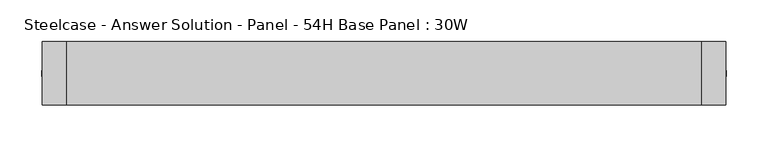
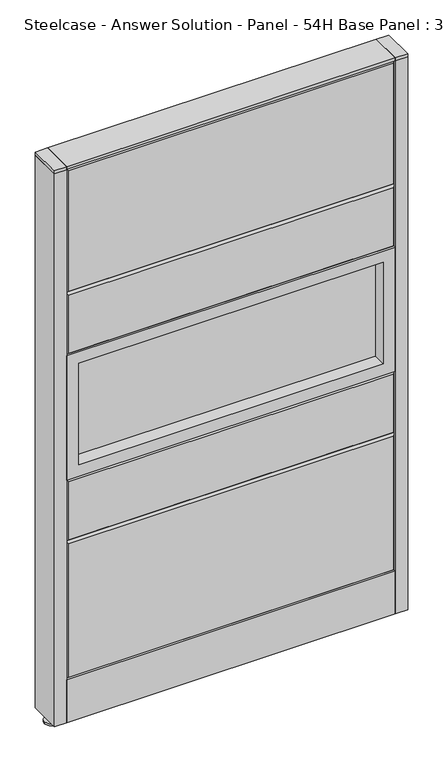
"""IFC4 building model written with IfcOpenShell, lengths in millimetres: furniture geometry, Steelcase - Answer Solution - Panel - 54H Base Panel : 30W."""

from ifc_helpers import new_model, si_unit, point, frame, frame_2d, origin, place, context, project, spatial, polyline, circle_curve, trimmed, segment, composite_curve, outline, extrude, faceted_brep, source, transform, mapped, element, save


def steelcase_answer_solution_panel_54h_base_panel_30w_2e228c11(model_context):
    return source(origin(), model_context, "Body", "SolidModel", [
        extrude(outline(composite_curve([segment(trimmed(circle_curve(frame_2d((395.224, 0.0320214)), 5.08), [point((400.304, 0.0320214))], [point((390.144, 0.0320214))], False, "CARTESIAN"), True, "CONTINUOUS"), segment(trimmed(circle_curve(frame_2d((395.224, 0.0320214)), 5.08), [point((390.144, 0.0320214))], [point((400.304, 0.0320214))], False, "CARTESIAN"), True, "CONTINUOUS")], self_intersect=False)), frame((0.0, 0.0, 5.0799671), z_axis=(0.0, 0.0, 1.0), x_axis=(1.0, 0.0, 0.0)), (0.0, 0.0, 1.0), 10.414),
        extrude(outline(composite_curve([segment(trimmed(circle_curve(frame_2d((395.224, 0.0320214)), 15.24), [point((410.464, 0.0320214))], [point((379.984, 0.0320214))], False, "CARTESIAN"), True, "CONTINUOUS"), segment(trimmed(circle_curve(frame_2d((395.224, 0.0320214)), 15.24), [point((379.984, 0.0320214))], [point((410.464, 0.0320214))], False, "CARTESIAN"), True, "CONTINUOUS")], self_intersect=False)), frame((0.0, 0.0, -3.29e-05), z_axis=(0.0, 0.0, 1.0), x_axis=(1.0, 0.0, 0.0)), (0.0, 0.0, 1.0), 5.08),
        extrude(outline(polyline([(409.575, 38.1320408), (409.575, -38.0679592), (381.0, -38.0679592), (381.0, 38.1320408), (409.575, 38.1320408)])), frame((0.0, 0.0, 1370.6348), z_axis=(0.0, 0.0, 1.0), x_axis=(1.0, 0.0, 0.0)), (0.0, 0.0, 1.0), 7.3151671),
        extrude(outline(polyline([(409.575, 38.1320408), (409.575, -38.0679592), (381.0, -38.0679592), (381.0, 38.1320408), (409.575, 38.1320408)])), frame((0.0, 0.0, 15.4939671), z_axis=(0.0, 0.0, 1.0), x_axis=(1.0, 0.0, 0.0)), (0.0, 0.0, 1.0), 1355.1408329),
        extrude(outline(composite_curve([segment(trimmed(circle_curve(frame_2d((-395.224, 0.0320214)), 5.08), [point((-400.304, 0.0320214))], [point((-390.144, 0.0320214))], False, "CARTESIAN"), True, "CONTINUOUS"), segment(trimmed(circle_curve(frame_2d((-395.224, 0.0320214)), 5.08), [point((-390.144, 0.0320214))], [point((-400.304, 0.0320214))], False, "CARTESIAN"), True, "CONTINUOUS")], self_intersect=False)), frame((0.0, 0.0, 5.0799671), z_axis=(0.0, 0.0, 1.0), x_axis=(1.0, 0.0, 0.0)), (0.0, 0.0, 1.0), 10.414),
        extrude(outline(composite_curve([segment(trimmed(circle_curve(frame_2d((-395.224, 0.0320214)), 15.24), [point((-410.464, 0.0320214))], [point((-379.984, 0.0320214))], False, "CARTESIAN"), True, "CONTINUOUS"), segment(trimmed(circle_curve(frame_2d((-395.224, 0.0320214)), 15.24), [point((-379.984, 0.0320214))], [point((-410.464, 0.0320214))], False, "CARTESIAN"), True, "CONTINUOUS")], self_intersect=False)), frame((0.0, 0.0, -3.29e-05), z_axis=(0.0, 0.0, 1.0), x_axis=(1.0, 0.0, 0.0)), (0.0, 0.0, 1.0), 5.08),
        extrude(outline(polyline([(-409.575, 38.1320408), (-381.0, 38.1320408), (-381.0, -38.0679592), (-409.575, -38.0679592), (-409.575, 38.1320408)])), frame((0.0, 0.0, 1370.6348), z_axis=(0.0, 0.0, 1.0), x_axis=(1.0, 0.0, 0.0)), (0.0, 0.0, 1.0), 7.3151671),
        extrude(outline(polyline([(-409.575, 38.1320408), (-381.0, 38.1320408), (-381.0, -38.0679592), (-409.575, -38.0679592), (-409.575, 38.1320408)])), frame((0.0, 0.0, 15.4939671), z_axis=(0.0, 0.0, 1.0), x_axis=(1.0, 0.0, 0.0)), (0.0, 0.0, 1.0), 1355.1408329),
        faceted_brep([(-376.174, 38.1635011, 1366.774), (376.174, 38.1635011, 1366.774), (376.174, 38.1635011, 1071.626), (-376.174, 38.1635011, 1071.626), (-381.0, 33.3375011, 1371.6), (-381.0, 33.3375011, 1066.8), (381.0, 33.3375011, 1066.8), (381.0, 33.3375011, 1371.6)], [[[0, 1, 2, 3]], [[4, 5, 6, 7]], [[4, 7, 1, 0]], [[7, 6, 2, 1]], [[6, 5, 3, 2]], [[5, 4, 0, 3]]]),
        extrude(outline(polyline([(-353.06, 6.346049), (353.06, 6.346049), (353.06, -6.353951), (-353.06, -6.353951), (-353.06, 6.346049)])), frame((0.0, 0.0, 637.54), z_axis=(0.0, 0.0, 1.0), x_axis=(1.0, 0.0, 0.0)), (0.0, 0.0, 1.0), 248.92),
        extrude(outline(polyline([(914.4, -381.0), (609.6, -381.0), (609.6, 381.0), (914.4, 381.0), (914.4, -381.0)]), holes=[polyline([(886.46, -353.06), (886.46, 353.06), (637.54, 353.06), (637.54, -353.06), (886.46, -353.06)])]), frame((0.0, -38.103951, 0.0), z_axis=(0.0, 1.0, 0.0), x_axis=(0.0, 0.0, 1.0)), (0.0, 0.0, 1.0), 76.2),
        faceted_brep([(-376.174, 38.1635011, 1061.974), (376.174, 38.1635011, 1061.974), (376.174, 38.1635011, 919.226), (-376.174, 38.1635011, 919.226), (-381.0, 33.3375011, 1066.8), (-381.0, 33.3375011, 914.4), (381.0, 33.3375011, 914.4), (381.0, 33.3375011, 1066.8)], [[[0, 1, 2, 3]], [[4, 5, 6, 7]], [[4, 7, 1, 0]], [[7, 6, 2, 1]], [[6, 5, 3, 2]], [[5, 4, 0, 3]]]),
        faceted_brep([(-376.174, 38.1635011, 604.774), (376.174, 38.1635011, 604.774), (376.174, 38.1635011, 462.026), (-376.174, 38.1635011, 462.026), (-381.0, 33.3375011, 609.6), (-381.0, 33.3375011, 457.2), (381.0, 33.3375011, 457.2), (381.0, 33.3375011, 609.6)], [[[0, 1, 2, 3]], [[4, 5, 6, 7]], [[4, 7, 1, 0]], [[7, 6, 2, 1]], [[6, 5, 3, 2]], [[5, 4, 0, 3]]]),
        faceted_brep([(-376.174, 38.1635011, 452.374), (376.174, 38.1635011, 452.374), (376.174, 38.1635011, 125.476), (-376.174, 38.1635011, 125.476), (-381.0, 33.3375011, 457.2), (-381.0, 33.3375011, 120.65), (381.0, 33.3375011, 120.65), (381.0, 33.3375011, 457.2)], [[[0, 1, 2, 3]], [[4, 5, 6, 7]], [[4, 7, 1, 0]], [[7, 6, 2, 1]], [[6, 5, 3, 2]], [[5, 4, 0, 3]]]),
        faceted_brep([(376.174, -38.1635011, 1366.774), (-376.174, -38.1635011, 1366.774), (-376.174, -38.1635011, 1071.626), (376.174, -38.1635011, 1071.626), (381.0, -33.3375011, 1371.6), (381.0, -33.3375011, 1066.8), (-381.0, -33.3375011, 1066.8), (-381.0, -33.3375011, 1371.6)], [[[0, 1, 2, 3]], [[4, 5, 6, 7]], [[4, 7, 1, 0]], [[7, 6, 2, 1]], [[6, 5, 3, 2]], [[5, 4, 0, 3]]]),
        extrude(outline(polyline([(353.06, -6.346049), (-353.06, -6.346049), (-353.06, 6.353951), (353.06, 6.353951), (353.06, -6.346049)])), frame((0.0, 0.0, 637.54), z_axis=(0.0, 0.0, 1.0), x_axis=(1.0, 0.0, 0.0)), (0.0, 0.0, 1.0), 248.92),
        extrude(outline(polyline([(914.4, 381.0), (914.4, -381.0), (609.6, -381.0), (609.6, 381.0), (914.4, 381.0)]), holes=[polyline([(886.46, 353.06), (637.54, 353.06), (637.54, -353.06), (886.46, -353.06), (886.46, 353.06)])]), frame((0.0, -38.096049, 0.0), z_axis=(0.0, 1.0, 0.0), x_axis=(0.0, 0.0, 1.0)), (0.0, 0.0, 1.0), 76.2),
        faceted_brep([(376.174, -38.1635011, 1061.974), (-376.174, -38.1635011, 1061.974), (-376.174, -38.1635011, 919.226), (376.174, -38.1635011, 919.226), (381.0, -33.3375011, 1066.8), (381.0, -33.3375011, 914.4), (-381.0, -33.3375011, 914.4), (-381.0, -33.3375011, 1066.8)], [[[0, 1, 2, 3]], [[4, 5, 6, 7]], [[4, 7, 1, 0]], [[7, 6, 2, 1]], [[6, 5, 3, 2]], [[5, 4, 0, 3]]]),
        faceted_brep([(376.174, -38.1635011, 604.774), (-376.174, -38.1635011, 604.774), (-376.174, -38.1635011, 462.026), (376.174, -38.1635011, 462.026), (381.0, -33.3375011, 609.6), (381.0, -33.3375011, 457.2), (-381.0, -33.3375011, 457.2), (-381.0, -33.3375011, 609.6)], [[[0, 1, 2, 3]], [[4, 5, 6, 7]], [[4, 7, 1, 0]], [[7, 6, 2, 1]], [[6, 5, 3, 2]], [[5, 4, 0, 3]]]),
        faceted_brep([(376.174, -38.1635011, 452.374), (-376.174, -38.1635011, 452.374), (-376.174, -38.1635011, 125.476), (376.174, -38.1635011, 125.476), (381.0, -33.3375011, 457.2), (381.0, -33.3375011, 120.65), (-381.0, -33.3375011, 120.65), (-381.0, -33.3375011, 457.2)], [[[0, 1, 2, 3]], [[4, 5, 6, 7]], [[4, 7, 1, 0]], [[7, 6, 2, 1]], [[6, 5, 3, 2]], [[5, 4, 0, 3]]]),
        extrude(outline(polyline([(381.0, 38.1000194), (381.0, -38.1000194), (-381.0, -38.1000194), (-381.0, 38.1000194), (381.0, 38.1000194)])), frame((0.0, 0.0, 1371.6), z_axis=(0.0, 0.0, 1.0), x_axis=(1.0, 0.0, 0.0)), (0.0, 0.0, 1.0), 6.35),
        extrude(outline(polyline([(25.4000011, 119.8575157), (25.4000011, 120.65), (38.1000194, 120.65), (38.1000194, 15.494), (37.3075215, 15.494), (37.3075215, 119.8575157), (25.4000011, 119.8575157)])), frame((-381.0, 0.0, 0.0), z_axis=(1.0, 0.0, 0.0), x_axis=(0.0, 1.0, 0.0)), (0.0, 0.0, 1.0), 762.0),
        extrude(outline(polyline([(-25.4000011, 119.8575157), (-37.3075215, 119.8575157), (-37.3075215, 15.494), (-38.1000194, 15.494), (-38.1000194, 120.65), (-25.4000011, 120.65), (-25.4000011, 119.8575157)])), frame((-381.0, 0.0, 0.0), z_axis=(1.0, 0.0, 0.0), x_axis=(0.0, 1.0, 0.0)), (0.0, 0.0, 1.0), 762.0),
    ])


if __name__ == "__main__":
    model = new_model("IFC4")
    model_context = context("Model", 3, world=origin())
    ifc_project = project(units=[si_unit("LENGTHUNIT", "METRE", prefix="MILLI")], contexts=[model_context])
    site = spatial("IfcSite", under=ifc_project)
    building = spatial("IfcBuilding", under=site)
    placement = place(None, origin())
    steelcase_answer_solution_panel_54h_base_panel_30w_shape = steelcase_answer_solution_panel_54h_base_panel_30w_2e228c11(model_context)
    element("IfcFurniture", 1, ObjectType="Steelcase - Answer Solution - Panel - 54H Base Panel : 30W", at=placement, inside=building, context=model_context, shape_type="MappedRepresentation", body=[
        mapped(steelcase_answer_solution_panel_54h_base_panel_30w_shape, transform((0.0, 0.0, 0.0), x_axis=(1.0, 0.0, 0.0), y_axis=(0.0, 1.0, 0.0), z_axis=(0.0, 0.0, 1.0))),
    ])
    save(model, "model.ifc")
